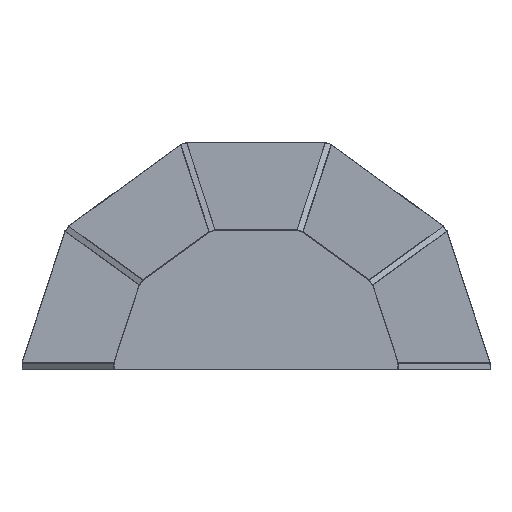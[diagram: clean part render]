
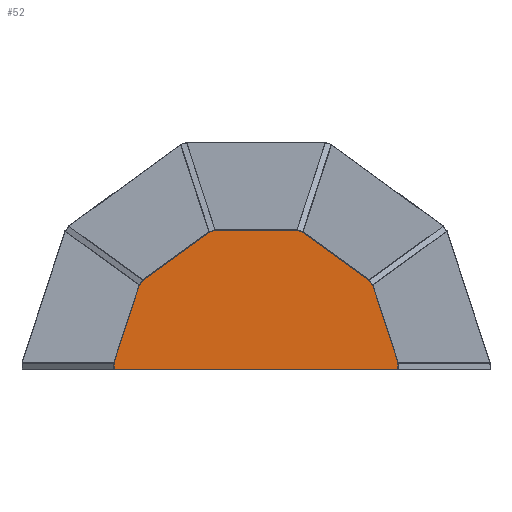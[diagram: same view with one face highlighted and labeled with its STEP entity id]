
A CAD part, front view. The second image highlights one B-rep face of the part: STEP entity #52.
In plain terms, the highlighted planar face has unit normal (0, -1, 0).
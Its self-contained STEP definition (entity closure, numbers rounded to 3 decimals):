
#35 = VERTEX_POINT ( 'NONE', #11577 ) ;
#52 = ADVANCED_FACE ( 'NONE', ( #12606 ), #3127, .T. ) ;
#506 = ORIENTED_EDGE ( 'NONE', *, *, #14783, .T. ) ;
#565 = CARTESIAN_POINT ( 'NONE',  ( 325.438, 0., 15. ) ) ;
#601 = VECTOR ( 'NONE', #987, 1000. ) ;
#668 = LINE ( 'NONE', #12613, #6030 ) ;
#771 = LINE ( 'NONE', #11991, #12239 ) ;
#882 = EDGE_LOOP ( 'NONE', ( #3766, #8074, #15740, #7083, #9088, #5094, #1274, #4013, #5908, #4566, #8650, #506 ) ) ;
#883 = DIRECTION ( 'NONE',  ( -0.951, 0., -0.309 ) ) ;
#986 = VERTEX_POINT ( 'NONE', #13956 ) ;
#987 = DIRECTION ( 'NONE',  ( 0., 0., -1. ) ) ;
#1037 = EDGE_CURVE ( 'NONE', #5722, #6065, #668, .T. ) ;
#1274 = ORIENTED_EDGE ( 'NONE', *, *, #4385, .T. ) ;
#1744 = VECTOR ( 'NONE', #9801, 1000. ) ;
#1829 = LINE ( 'NONE', #565, #14958 ) ;
#2018 = LINE ( 'NONE', #14200, #601 ) ;
#2135 = EDGE_CURVE ( 'NONE', #6065, #35, #10462, .T. ) ;
#2245 = CARTESIAN_POINT ( 'NONE',  ( -325.438, 0., 0.707 ) ) ;
#2466 = VERTEX_POINT ( 'NONE', #6306 ) ;
#2511 = DIRECTION ( 'NONE',  ( -0.809, 0., 0.588 ) ) ;
#2636 = VECTOR ( 'NONE', #2511, 1000. ) ;
#2643 = EDGE_CURVE ( 'NONE', #14375, #986, #14899, .T. ) ;
#2809 = CARTESIAN_POINT ( 'NONE',  ( 258.876, 0., 204.855 ) ) ;
#3127 = PLANE ( 'NONE',  #9339 ) ;
#3766 = ORIENTED_EDGE ( 'NONE', *, *, #4787, .T. ) ;
#4013 = ORIENTED_EDGE ( 'NONE', *, *, #15639, .T. ) ;
#4130 = CARTESIAN_POINT ( 'NONE',  ( 107.592, 0., 314.727 ) ) ;
#4328 = DIRECTION ( 'NONE',  ( 0., 0., -1. ) ) ;
#4385 = EDGE_CURVE ( 'NONE', #35, #8398, #2018, .T. ) ;
#4566 = ORIENTED_EDGE ( 'NONE', *, *, #8533, .T. ) ;
#4787 = EDGE_CURVE ( 'NONE', #13262, #11082, #6545, .T. ) ;
#4844 = CARTESIAN_POINT ( 'NONE',  ( 267.627, 0., 192.811 ) ) ;
#4892 = CARTESIAN_POINT ( 'NONE',  ( -258.942, 0., 204.765 ) ) ;
#5094 = ORIENTED_EDGE ( 'NONE', *, *, #2135, .T. ) ;
#5102 = VERTEX_POINT ( 'NONE', #13546 ) ;
#5197 = CARTESIAN_POINT ( 'NONE',  ( 93.433, 0., 319.328 ) ) ;
#5206 = EDGE_CURVE ( 'NONE', #5102, #2466, #1829, .T. ) ;
#5284 = CARTESIAN_POINT ( 'NONE',  ( -107.592, 0., 314.727 ) ) ;
#5599 = CARTESIAN_POINT ( 'NONE',  ( 0., 0., 0. ) ) ;
#5660 = DIRECTION ( 'NONE',  ( 0., 0., 1. ) ) ;
#5722 = VERTEX_POINT ( 'NONE', #4892 ) ;
#5750 = VECTOR ( 'NONE', #12444, 1000. ) ;
#5784 = DIRECTION ( 'NONE',  ( -1., 0., 0. ) ) ;
#5908 = ORIENTED_EDGE ( 'NONE', *, *, #5206, .T. ) ;
#6030 = VECTOR ( 'NONE', #11507, 1000. ) ;
#6032 = VERTEX_POINT ( 'NONE', #11733 ) ;
#6065 = VERTEX_POINT ( 'NONE', #7660 ) ;
#6218 = LINE ( 'NONE', #11077, #1744 ) ;
#6304 = LINE ( 'NONE', #9967, #5750 ) ;
#6306 = CARTESIAN_POINT ( 'NONE',  ( 325.438, 0., 14.888 ) ) ;
#6545 = LINE ( 'NONE', #5197, #12181 ) ;
#6748 = DIRECTION ( 'NONE',  ( -0.809, 0., -0.588 ) ) ;
#7083 = ORIENTED_EDGE ( 'NONE', *, *, #13238, .T. ) ;
#7376 = VECTOR ( 'NONE', #11659, 1000. ) ;
#7660 = CARTESIAN_POINT ( 'NONE',  ( -267.627, 0., 192.811 ) ) ;
#7703 = VECTOR ( 'NONE', #6748, 1000. ) ;
#8074 = ORIENTED_EDGE ( 'NONE', *, *, #12271, .T. ) ;
#8285 = LINE ( 'NONE', #9324, #14643 ) ;
#8398 = VERTEX_POINT ( 'NONE', #2245 ) ;
#8533 = EDGE_CURVE ( 'NONE', #2466, #14375, #6304, .T. ) ;
#8650 = ORIENTED_EDGE ( 'NONE', *, *, #2643, .T. ) ;
#8700 = EDGE_CURVE ( 'NONE', #6032, #14934, #8285, .T. ) ;
#9088 = ORIENTED_EDGE ( 'NONE', *, *, #1037, .T. ) ;
#9324 = CARTESIAN_POINT ( 'NONE',  ( -107.699, 0., 314.692 ) ) ;
#9339 = AXIS2_PLACEMENT_3D ( 'NONE', #5599, #15229, #4328 ) ;
#9673 = CARTESIAN_POINT ( 'NONE',  ( 93.539, 0., 319.293 ) ) ;
#9801 = DIRECTION ( 'NONE',  ( 1., 0., 0. ) ) ;
#9967 = CARTESIAN_POINT ( 'NONE',  ( 267.593, 0., 192.917 ) ) ;
#10060 = DIRECTION ( 'NONE',  ( -0.951, 0., 0.309 ) ) ;
#10412 = LINE ( 'NONE', #15031, #7703 ) ;
#10462 = LINE ( 'NONE', #15155, #7376 ) ;
#11077 = CARTESIAN_POINT ( 'NONE',  ( 326.145, 0., 0.707 ) ) ;
#11082 = VERTEX_POINT ( 'NONE', #9673 ) ;
#11458 = VECTOR ( 'NONE', #14980, 1000. ) ;
#11507 = DIRECTION ( 'NONE',  ( -0.588, 0., -0.809 ) ) ;
#11577 = CARTESIAN_POINT ( 'NONE',  ( -325.438, 0., 14.888 ) ) ;
#11659 = DIRECTION ( 'NONE',  ( -0.309, 0., -0.951 ) ) ;
#11733 = CARTESIAN_POINT ( 'NONE',  ( -93.539, 0., 319.293 ) ) ;
#11912 = CARTESIAN_POINT ( 'NONE',  ( 107.502, 0., 314.793 ) ) ;
#11991 = CARTESIAN_POINT ( 'NONE',  ( -93.651, 0., 319.293 ) ) ;
#12181 = VECTOR ( 'NONE', #10060, 1000. ) ;
#12239 = VECTOR ( 'NONE', #5784, 1000. ) ;
#12271 = EDGE_CURVE ( 'NONE', #11082, #6032, #771, .T. ) ;
#12444 = DIRECTION ( 'NONE',  ( -0.309, 0., 0.951 ) ) ;
#12606 = FACE_OUTER_BOUND ( 'NONE', #882, .T. ) ;
#12613 = CARTESIAN_POINT ( 'NONE',  ( -267.693, 0., 192.72 ) ) ;
#13238 = EDGE_CURVE ( 'NONE', #14934, #5722, #10412, .T. ) ;
#13262 = VERTEX_POINT ( 'NONE', #4130 ) ;
#13546 = CARTESIAN_POINT ( 'NONE',  ( 325.438, 0., 0.707 ) ) ;
#13956 = CARTESIAN_POINT ( 'NONE',  ( 258.942, 0., 204.765 ) ) ;
#14200 = CARTESIAN_POINT ( 'NONE',  ( -325.438, 0., 0. ) ) ;
#14373 = LINE ( 'NONE', #11912, #2636 ) ;
#14375 = VERTEX_POINT ( 'NONE', #4844 ) ;
#14643 = VECTOR ( 'NONE', #883, 1000. ) ;
#14783 = EDGE_CURVE ( 'NONE', #986, #13262, #14373, .T. ) ;
#14899 = LINE ( 'NONE', #2809, #11458 ) ;
#14934 = VERTEX_POINT ( 'NONE', #5284 ) ;
#14958 = VECTOR ( 'NONE', #5660, 1000. ) ;
#14980 = DIRECTION ( 'NONE',  ( -0.588, 0., 0.809 ) ) ;
#15031 = CARTESIAN_POINT ( 'NONE',  ( -259.033, 0., 204.699 ) ) ;
#15155 = CARTESIAN_POINT ( 'NONE',  ( -325.473, 0., 14.781 ) ) ;
#15229 = DIRECTION ( 'NONE',  ( 0., -1., 0. ) ) ;
#15639 = EDGE_CURVE ( 'NONE', #8398, #5102, #6218, .T. ) ;
#15740 = ORIENTED_EDGE ( 'NONE', *, *, #8700, .T. ) ;
